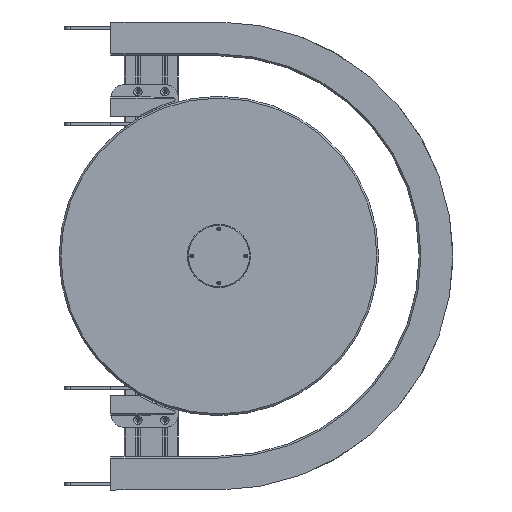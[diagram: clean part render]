
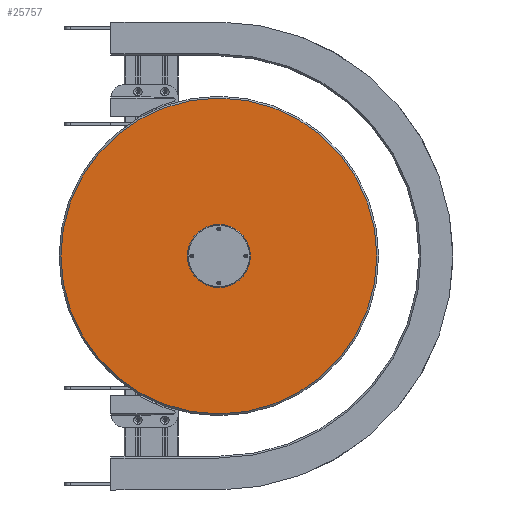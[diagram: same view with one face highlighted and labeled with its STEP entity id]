
A CAD part, front view. The second image highlights one B-rep face of the part: STEP entity #25757.
In plain terms, the highlighted planar face has unit normal (0, -1, 0) as drawn and (0, 1, 0) by its records, which use the part's own axes.
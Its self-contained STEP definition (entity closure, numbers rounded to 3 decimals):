
#164 = DIRECTION ( 'NONE',  ( 0., 1., 0. ) ) ;
#735 = DIRECTION ( 'NONE',  ( 0., 1., 0. ) ) ;
#771 = DIRECTION ( 'NONE',  ( 0., 0., 1. ) ) ;
#1273 = AXIS2_PLACEMENT_3D ( 'NONE', #12103, #3573, #9374 ) ;
#1561 = PLANE ( 'NONE',  #22080 ) ;
#1885 = ORIENTED_EDGE ( 'NONE', *, *, #26089, .F. ) ;
#1901 = DIRECTION ( 'NONE',  ( 0., 0., 1. ) ) ;
#2727 = VERTEX_POINT ( 'NONE', #20536 ) ;
#3299 = EDGE_LOOP ( 'NONE', ( #6574, #22820 ) ) ;
#3573 = DIRECTION ( 'NONE',  ( 0., 1., 0. ) ) ;
#5466 = ORIENTED_EDGE ( 'NONE', *, *, #13930, .F. ) ;
#5863 = VERTEX_POINT ( 'NONE', #25296 ) ;
#5921 = CARTESIAN_POINT ( 'NONE',  ( -30., 10., 0. ) ) ;
#6025 = DIRECTION ( 'NONE',  ( 0., 1., 0. ) ) ;
#6241 = ORIENTED_EDGE ( 'NONE', *, *, #25800, .F. ) ;
#6393 = VERTEX_POINT ( 'NONE', #24007 ) ;
#6542 = FACE_BOUND ( 'NONE', #17537, .T. ) ;
#6574 = ORIENTED_EDGE ( 'NONE', *, *, #34327, .F. ) ;
#6888 = ORIENTED_EDGE ( 'NONE', *, *, #23480, .F. ) ;
#7227 = CARTESIAN_POINT ( 'NONE',  ( 0., 10., 0. ) ) ;
#7278 = CIRCLE ( 'NONE', #29122, 25. ) ;
#7619 = EDGE_CURVE ( 'NONE', #14338, #5863, #32264, .T. ) ;
#8739 = DIRECTION ( 'NONE',  ( 0., 1., 0. ) ) ;
#8768 = ORIENTED_EDGE ( 'NONE', *, *, #10124, .F. ) ;
#8970 = DIRECTION ( 'NONE',  ( 0., 0., 1. ) ) ;
#9063 = CARTESIAN_POINT ( 'NONE',  ( 0., 10., 175.5 ) ) ;
#9283 = EDGE_CURVE ( 'NONE', #18320, #6393, #29599, .T. ) ;
#9374 = DIRECTION ( 'NONE',  ( 0., 0., 1. ) ) ;
#9495 = FACE_BOUND ( 'NONE', #9514, .T. ) ;
#9514 = EDGE_LOOP ( 'NONE', ( #25670, #6888 ) ) ;
#9848 = VERTEX_POINT ( 'NONE', #23582 ) ;
#10081 = AXIS2_PLACEMENT_3D ( 'NONE', #11494, #19571, #27689 ) ;
#10124 = EDGE_CURVE ( 'NONE', #23604, #2727, #14851, .T. ) ;
#10130 = EDGE_CURVE ( 'NONE', #13808, #29080, #13124, .T. ) ;
#10163 = CARTESIAN_POINT ( 'NONE',  ( 30., 10., 0. ) ) ;
#10531 = AXIS2_PLACEMENT_3D ( 'NONE', #10163, #29062, #34804 ) ;
#11470 = CIRCLE ( 'NONE', #27932, 0.75 ) ;
#11494 = CARTESIAN_POINT ( 'NONE',  ( 0., 10., 30. ) ) ;
#11898 = CARTESIAN_POINT ( 'NONE',  ( 0., 10., 0. ) ) ;
#12103 = CARTESIAN_POINT ( 'NONE',  ( 30., 10., 0. ) ) ;
#12462 = AXIS2_PLACEMENT_3D ( 'NONE', #34361, #21195, #26162 ) ;
#12558 = DIRECTION ( 'NONE',  ( 0., 1., 0. ) ) ;
#13124 = CIRCLE ( 'NONE', #20761, 0.75 ) ;
#13808 = VERTEX_POINT ( 'NONE', #25918 ) ;
#13930 = EDGE_CURVE ( 'NONE', #21042, #34973, #28916, .T. ) ;
#14129 = CIRCLE ( 'NONE', #15303, 0.75 ) ;
#14338 = VERTEX_POINT ( 'NONE', #21907 ) ;
#14349 = CARTESIAN_POINT ( 'NONE',  ( 0., 10., -29.25 ) ) ;
#14729 = CARTESIAN_POINT ( 'NONE',  ( -30., 10., 0. ) ) ;
#14772 = DIRECTION ( 'NONE',  ( 0., 1., 0. ) ) ;
#14798 = EDGE_LOOP ( 'NONE', ( #1885, #18493 ) ) ;
#14829 = DIRECTION ( 'NONE',  ( 0., 1., 0. ) ) ;
#14851 = CIRCLE ( 'NONE', #1273, 0.75 ) ;
#15303 = AXIS2_PLACEMENT_3D ( 'NONE', #19778, #8739, #8970 ) ;
#16283 = FACE_OUTER_BOUND ( 'NONE', #28610, .T. ) ;
#16306 = EDGE_CURVE ( 'NONE', #34973, #21042, #24342, .T. ) ;
#16318 = ORIENTED_EDGE ( 'NONE', *, *, #26986, .T. ) ;
#16385 = DIRECTION ( 'NONE',  ( 0., 1., 0. ) ) ;
#16493 = CARTESIAN_POINT ( 'NONE',  ( 0., 10., -30. ) ) ;
#16883 = CARTESIAN_POINT ( 'NONE',  ( 0., 10., 0. ) ) ;
#17537 = EDGE_LOOP ( 'NONE', ( #8768, #6241 ) ) ;
#18229 = CARTESIAN_POINT ( 'NONE',  ( 0., 10., 0. ) ) ;
#18320 = VERTEX_POINT ( 'NONE', #23400 ) ;
#18493 = ORIENTED_EDGE ( 'NONE', *, *, #9283, .F. ) ;
#19103 = CARTESIAN_POINT ( 'NONE',  ( 0., 10., -30.75 ) ) ;
#19137 = DIRECTION ( 'NONE',  ( 0., 0., 1. ) ) ;
#19571 = DIRECTION ( 'NONE',  ( 0., 1., 0. ) ) ;
#19778 = CARTESIAN_POINT ( 'NONE',  ( 0., 10., 30. ) ) ;
#20536 = CARTESIAN_POINT ( 'NONE',  ( 30., 10., -0.75 ) ) ;
#20761 = AXIS2_PLACEMENT_3D ( 'NONE', #14729, #14829, #33324 ) ;
#20904 = CARTESIAN_POINT ( 'NONE',  ( -30., 10., -0.75 ) ) ;
#21042 = VERTEX_POINT ( 'NONE', #14349 ) ;
#21139 = AXIS2_PLACEMENT_3D ( 'NONE', #11898, #14772, #771 ) ;
#21170 = AXIS2_PLACEMENT_3D ( 'NONE', #16883, #735, #22409 ) ;
#21195 = DIRECTION ( 'NONE',  ( 0., 1., 0. ) ) ;
#21482 = EDGE_LOOP ( 'NONE', ( #5466, #27995 ) ) ;
#21761 = CIRCLE ( 'NONE', #10531, 0.75 ) ;
#21907 = CARTESIAN_POINT ( 'NONE',  ( 0., 10., -25. ) ) ;
#22080 = AXIS2_PLACEMENT_3D ( 'NONE', #7227, #12558, #1901 ) ;
#22115 = DIRECTION ( 'NONE',  ( 0., 0., 1. ) ) ;
#22409 = DIRECTION ( 'NONE',  ( 0., 0., 1. ) ) ;
#22820 = ORIENTED_EDGE ( 'NONE', *, *, #7619, .F. ) ;
#23400 = CARTESIAN_POINT ( 'NONE',  ( 0., 10., 29.25 ) ) ;
#23480 = EDGE_CURVE ( 'NONE', #29080, #13808, #11470, .T. ) ;
#23535 = CIRCLE ( 'NONE', #21139, 175.5 ) ;
#23582 = CARTESIAN_POINT ( 'NONE',  ( 0., 10., -175.5 ) ) ;
#23604 = VERTEX_POINT ( 'NONE', #33170 ) ;
#24007 = CARTESIAN_POINT ( 'NONE',  ( 0., 10., 30.75 ) ) ;
#24342 = CIRCLE ( 'NONE', #29240, 0.75 ) ;
#24668 = FACE_BOUND ( 'NONE', #14798, .T. ) ;
#25296 = CARTESIAN_POINT ( 'NONE',  ( 0., 10., 25. ) ) ;
#25670 = ORIENTED_EDGE ( 'NONE', *, *, #10130, .F. ) ;
#25757 = ADVANCED_FACE ( 'NONE', ( #25998, #6542, #24668, #9495, #16283, #31007 ), #1561, .T. ) ;
#25800 = EDGE_CURVE ( 'NONE', #2727, #23604, #21761, .T. ) ;
#25918 = CARTESIAN_POINT ( 'NONE',  ( -30., 10., 0.75 ) ) ;
#25998 = FACE_BOUND ( 'NONE', #21482, .T. ) ;
#26089 = EDGE_CURVE ( 'NONE', #6393, #18320, #14129, .T. ) ;
#26162 = DIRECTION ( 'NONE',  ( 0., 0., 1. ) ) ;
#26986 = EDGE_CURVE ( 'NONE', #29554, #9848, #33019, .T. ) ;
#27056 = AXIS2_PLACEMENT_3D ( 'NONE', #18229, #29028, #34194 ) ;
#27310 = DIRECTION ( 'NONE',  ( 0., 0., 1. ) ) ;
#27689 = DIRECTION ( 'NONE',  ( 0., 0., 1. ) ) ;
#27932 = AXIS2_PLACEMENT_3D ( 'NONE', #5921, #6025, #22115 ) ;
#27995 = ORIENTED_EDGE ( 'NONE', *, *, #16306, .F. ) ;
#28610 = EDGE_LOOP ( 'NONE', ( #28913, #16318 ) ) ;
#28913 = ORIENTED_EDGE ( 'NONE', *, *, #31504, .T. ) ;
#28916 = CIRCLE ( 'NONE', #12462, 0.75 ) ;
#29028 = DIRECTION ( 'NONE',  ( 0., 1., 0. ) ) ;
#29062 = DIRECTION ( 'NONE',  ( 0., 1., 0. ) ) ;
#29080 = VERTEX_POINT ( 'NONE', #20904 ) ;
#29122 = AXIS2_PLACEMENT_3D ( 'NONE', #35011, #164, #19137 ) ;
#29240 = AXIS2_PLACEMENT_3D ( 'NONE', #16493, #16385, #27310 ) ;
#29554 = VERTEX_POINT ( 'NONE', #9063 ) ;
#29599 = CIRCLE ( 'NONE', #10081, 0.75 ) ;
#31007 = FACE_BOUND ( 'NONE', #3299, .T. ) ;
#31504 = EDGE_CURVE ( 'NONE', #9848, #29554, #23535, .T. ) ;
#32264 = CIRCLE ( 'NONE', #21170, 25. ) ;
#33019 = CIRCLE ( 'NONE', #27056, 175.5 ) ;
#33170 = CARTESIAN_POINT ( 'NONE',  ( 30., 10., 0.75 ) ) ;
#33324 = DIRECTION ( 'NONE',  ( 0., 0., 1. ) ) ;
#34194 = DIRECTION ( 'NONE',  ( 0., 0., 1. ) ) ;
#34327 = EDGE_CURVE ( 'NONE', #5863, #14338, #7278, .T. ) ;
#34361 = CARTESIAN_POINT ( 'NONE',  ( 0., 10., -30. ) ) ;
#34804 = DIRECTION ( 'NONE',  ( 0., 0., 1. ) ) ;
#34973 = VERTEX_POINT ( 'NONE', #19103 ) ;
#35011 = CARTESIAN_POINT ( 'NONE',  ( 0., 10., 0. ) ) ;
